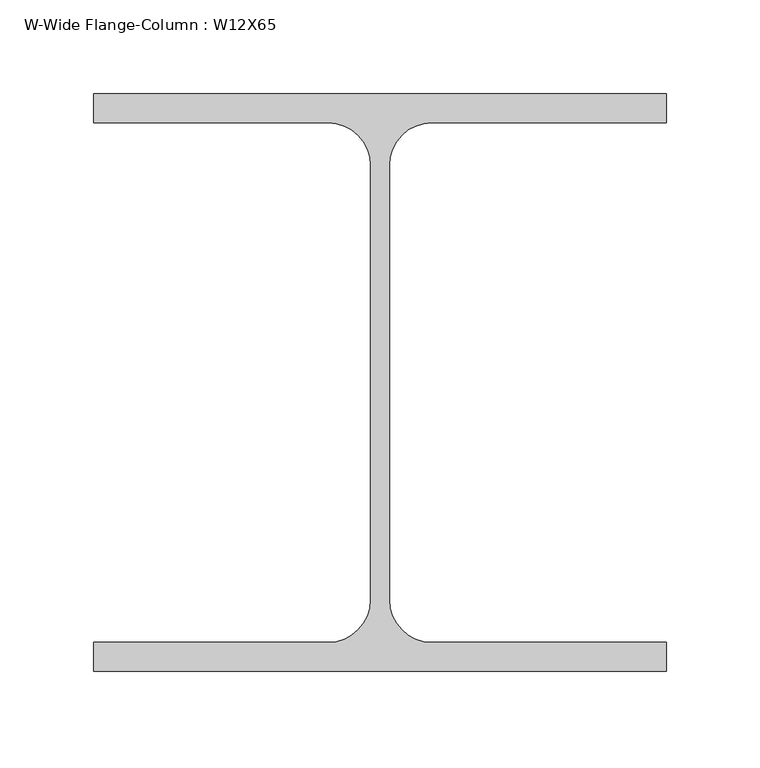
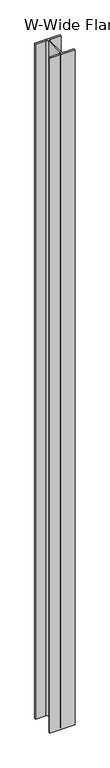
"""IFC4 building model written with IfcOpenShell, lengths in millimetres: column geometry, W-Wide Flange-Column : W12X65."""

from ifc_helpers import new_model, si_unit, point, frame_2d, origin, origin_with_axes, place, context, project, spatial, polyline, circle_curve, trimmed, segment, composite_curve, outline, extrude, source, transform, mapped, element, save


def w_wide_flange_column_w12x65_f58937c4(model_context):
    return source(origin(), model_context, "Body", "SweptSolid", [
        extrude(outline(composite_curve([segment(polyline([(152.4, 153.67), (152.4, 138.303), (27.686, 138.303)]), True, "CONTINUOUS"), segment(trimmed(circle_curve(frame_2d((27.686, 115.57)), 22.733), [point((27.686, 138.303))], [point((4.953, 115.57))], True, "CARTESIAN"), True, "CONTINUOUS"), segment(polyline([(4.953, 115.57), (4.953, -115.57)]), True, "CONTINUOUS"), segment(trimmed(circle_curve(frame_2d((27.686, -115.57)), 22.733), [point((4.953, -115.57))], [point((27.686, -138.303))], True, "CARTESIAN"), True, "CONTINUOUS"), segment(polyline([(27.686, -138.303), (152.4, -138.303), (152.4, -153.67), (-152.4, -153.67), (-152.4, -138.303), (-27.686, -138.303)]), True, "CONTINUOUS"), segment(trimmed(circle_curve(frame_2d((-27.686, -115.57)), 22.733), [point((-27.686, -138.303))], [point((-4.953, -115.57))], True, "CARTESIAN"), True, "CONTINUOUS"), segment(polyline([(-4.953, -115.57), (-4.953, 115.57)]), True, "CONTINUOUS"), segment(trimmed(circle_curve(frame_2d((-27.686, 115.57)), 22.733), [point((-4.953, 115.57))], [point((-27.686, 138.303))], True, "CARTESIAN"), True, "CONTINUOUS"), segment(polyline([(-27.686, 138.303), (-152.4, 138.303), (-152.4, 153.67), (152.4, 153.67)]), True, "CONTINUOUS")], self_intersect=False)), origin_with_axes(), (0.0, 0.0, 1.0), 8534.4),
    ])


if __name__ == "__main__":
    model = new_model("IFC4")
    model_context = context("Model", 3, world=origin())
    ifc_project = project(units=[si_unit("LENGTHUNIT", "METRE", prefix="MILLI")], contexts=[model_context])
    site = spatial("IfcSite", under=ifc_project)
    building = spatial("IfcBuilding", under=site)
    placement = place(None, origin())
    w_wide_flange_column_w12x65_shape = w_wide_flange_column_w12x65_f58937c4(model_context)
    element("IfcColumn", 1, ObjectType="W-Wide Flange-Column : W12X65", at=placement, inside=building, context=model_context, shape_type="MappedRepresentation", body=[
        mapped(w_wide_flange_column_w12x65_shape, transform((0.0, 0.0, 0.0), x_axis=(1.0, 0.0, 0.0), y_axis=(0.0, 1.0, 0.0), z_axis=(0.0, 0.0, 1.0))),
    ])
    save(model, "model.ifc")
